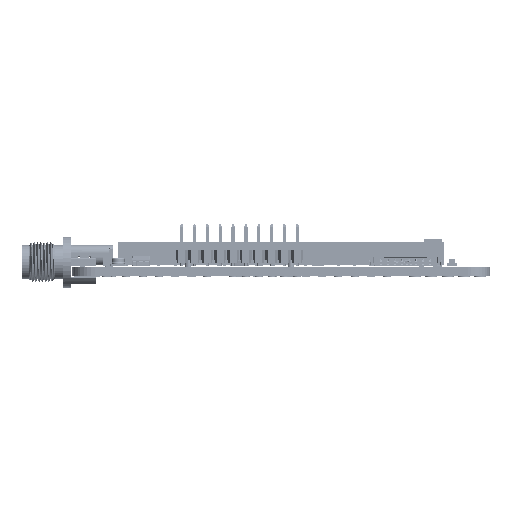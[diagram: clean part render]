
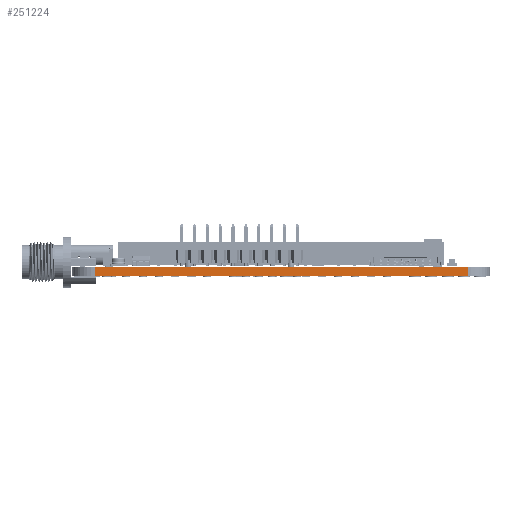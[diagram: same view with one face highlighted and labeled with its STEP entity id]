
A CAD part, front view. The second image highlights one B-rep face of the part: STEP entity #251224.
In plain terms, the highlighted planar face has unit normal (0, -1, 0).
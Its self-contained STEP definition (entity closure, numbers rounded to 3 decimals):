
#249341 = VERTEX_POINT('',#249342);
#249342 = CARTESIAN_POINT('',(3.5,0.,0.));
#249349 = EDGE_CURVE('',#249350,#249341,#249352,.T.);
#249350 = VERTEX_POINT('',#249351);
#249351 = CARTESIAN_POINT('',(61.5,0.,0.));
#249352 = LINE('',#249353,#249354);
#249353 = CARTESIAN_POINT('',(61.5,-0.,0.));
#249354 = VECTOR('',#249355,1.);
#249355 = DIRECTION('',(-1.,0.,0.));
#250294 = VERTEX_POINT('',#250295);
#250295 = CARTESIAN_POINT('',(3.5,0.,1.51));
#250302 = EDGE_CURVE('',#250303,#250294,#250305,.T.);
#250303 = VERTEX_POINT('',#250304);
#250304 = CARTESIAN_POINT('',(61.5,0.,1.51));
#250305 = LINE('',#250306,#250307);
#250306 = CARTESIAN_POINT('',(61.5,0.,1.51));
#250307 = VECTOR('',#250308,1.);
#250308 = DIRECTION('',(-1.,0.,0.));
#251196 = EDGE_CURVE('',#249350,#250303,#251197,.T.);
#251197 = LINE('',#251198,#251199);
#251198 = CARTESIAN_POINT('',(61.5,0.,0.));
#251199 = VECTOR('',#251200,1.);
#251200 = DIRECTION('',(0.,0.,1.));
#251224 = ADVANCED_FACE('',(#251225),#251236,.T.);
#251225 = FACE_BOUND('',#251226,.T.);
#251226 = EDGE_LOOP('',(#251227,#251228,#251229,#251235));
#251227 = ORIENTED_EDGE('',*,*,#251196,.T.);
#251228 = ORIENTED_EDGE('',*,*,#250302,.T.);
#251229 = ORIENTED_EDGE('',*,*,#251230,.F.);
#251230 = EDGE_CURVE('',#249341,#250294,#251231,.T.);
#251231 = LINE('',#251232,#251233);
#251232 = CARTESIAN_POINT('',(3.5,0.,0.));
#251233 = VECTOR('',#251234,1.);
#251234 = DIRECTION('',(0.,0.,1.));
#251235 = ORIENTED_EDGE('',*,*,#249349,.F.);
#251236 = PLANE('',#251237);
#251237 = AXIS2_PLACEMENT_3D('',#251238,#251239,#251240);
#251238 = CARTESIAN_POINT('',(61.5,0.,0.));
#251239 = DIRECTION('',(0.,-1.,0.));
#251240 = DIRECTION('',(-1.,0.,0.));
